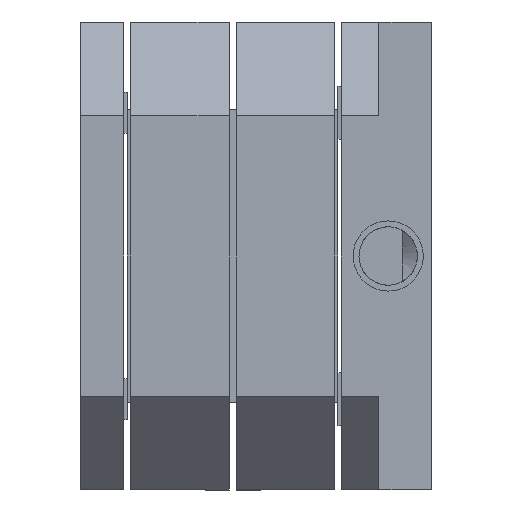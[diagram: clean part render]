
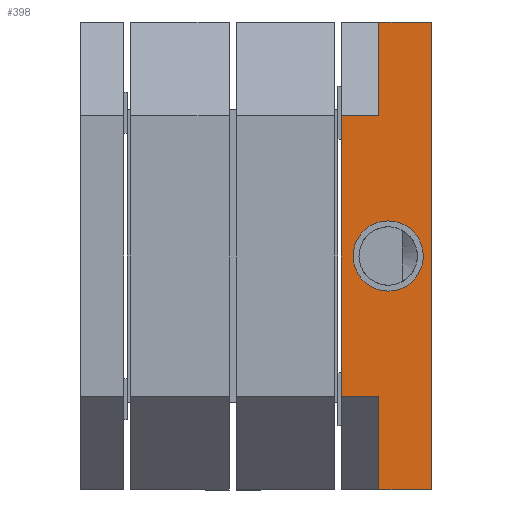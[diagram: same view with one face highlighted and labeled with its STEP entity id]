
A CAD part, front view. The second image highlights one B-rep face of the part: STEP entity #398.
In plain terms, the highlighted planar face has unit normal (0, -1, 0).
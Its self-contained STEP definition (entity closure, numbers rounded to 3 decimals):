
#1 = LINE ( 'NONE', #554, #2508 ) ;
#21 = LINE ( 'NONE', #2974, #5127 ) ;
#42 = VECTOR ( 'NONE', #1494, 1000. ) ;
#74 = DIRECTION ( 'NONE',  ( 1., 0., 0. ) ) ;
#109 = DIRECTION ( 'NONE',  ( 0., 0., -1. ) ) ;
#234 = PLANE ( 'NONE',  #5283 ) ;
#257 = VERTEX_POINT ( 'NONE', #2512 ) ;
#355 = EDGE_CURVE ( 'NONE', #257, #4995, #3972, .T. ) ;
#398 = ADVANCED_FACE ( 'NONE', ( #2708, #2584 ), #234, .F. ) ;
#413 = CARTESIAN_POINT ( 'NONE',  ( 7.7, -20., -20. ) ) ;
#432 = DIRECTION ( 'NONE',  ( -1., 0., 0. ) ) ;
#466 = CARTESIAN_POINT ( 'NONE',  ( 7.7, -20., -12. ) ) ;
#491 = LINE ( 'NONE', #4491, #42 ) ;
#554 = CARTESIAN_POINT ( 'NONE',  ( 0., -20., 20. ) ) ;
#673 = EDGE_CURVE ( 'NONE', #3992, #4473, #1, .T. ) ;
#711 = EDGE_CURVE ( 'NONE', #4995, #4681, #3447, .T. ) ;
#761 = CARTESIAN_POINT ( 'NONE',  ( 3.7, -20., 0. ) ) ;
#763 = CARTESIAN_POINT ( 'NONE',  ( 3.7, -20., -2.5 ) ) ;
#815 = LINE ( 'NONE', #413, #1152 ) ;
#1019 = ORIENTED_EDGE ( 'NONE', *, *, #4736, .F. ) ;
#1131 = CARTESIAN_POINT ( 'NONE',  ( 0., -20., -20. ) ) ;
#1145 = DIRECTION ( 'NONE',  ( 0., 0., -1. ) ) ;
#1152 = VECTOR ( 'NONE', #2976, 1000. ) ;
#1322 = EDGE_CURVE ( 'NONE', #3853, #4681, #3237, .T. ) ;
#1469 = LINE ( 'NONE', #3019, #2453 ) ;
#1472 = CIRCLE ( 'NONE', #5468, 2.5 ) ;
#1494 = DIRECTION ( 'NONE',  ( 0., 0., -1. ) ) ;
#1578 = ORIENTED_EDGE ( 'NONE', *, *, #4008, .F. ) ;
#1601 = CARTESIAN_POINT ( 'NONE',  ( 4.5, -20., -12. ) ) ;
#1943 = ORIENTED_EDGE ( 'NONE', *, *, #4478, .F. ) ;
#1964 = VERTEX_POINT ( 'NONE', #763 ) ;
#2107 = CARTESIAN_POINT ( 'NONE',  ( 4.5, -20., -20. ) ) ;
#2128 = ORIENTED_EDGE ( 'NONE', *, *, #673, .T. ) ;
#2135 = DIRECTION ( 'NONE',  ( 0., 0., -1. ) ) ;
#2180 = CARTESIAN_POINT ( 'NONE',  ( 4.5, -20., 12. ) ) ;
#2251 = CARTESIAN_POINT ( 'NONE',  ( 7.7, -20., 20. ) ) ;
#2367 = ORIENTED_EDGE ( 'NONE', *, *, #4623, .T. ) ;
#2408 = EDGE_LOOP ( 'NONE', ( #1578, #1943 ) ) ;
#2453 = VECTOR ( 'NONE', #109, 1000. ) ;
#2508 = VECTOR ( 'NONE', #3918, 1000. ) ;
#2512 = CARTESIAN_POINT ( 'NONE',  ( 4.5, -20., 12. ) ) ;
#2584 = FACE_OUTER_BOUND ( 'NONE', #3123, .T. ) ;
#2635 = EDGE_CURVE ( 'NONE', #3065, #257, #491, .T. ) ;
#2669 = DIRECTION ( 'NONE',  ( 0., 0., -1. ) ) ;
#2708 = FACE_BOUND ( 'NONE', #2408, .T. ) ;
#2775 = CARTESIAN_POINT ( 'NONE',  ( 4.5, -20., 20. ) ) ;
#2974 = CARTESIAN_POINT ( 'NONE',  ( 7.7, -20., 20. ) ) ;
#2976 = DIRECTION ( 'NONE',  ( -1., 0., 0. ) ) ;
#2990 = AXIS2_PLACEMENT_3D ( 'NONE', #5459, #4664, #2135 ) ;
#3019 = CARTESIAN_POINT ( 'NONE',  ( 4.5, -20., -12. ) ) ;
#3065 = VERTEX_POINT ( 'NONE', #2775 ) ;
#3116 = VECTOR ( 'NONE', #2669, 1000. ) ;
#3123 = EDGE_LOOP ( 'NONE', ( #1019, #4936, #3417, #4668, #3159, #2367, #2128, #3851 ) ) ;
#3159 = ORIENTED_EDGE ( 'NONE', *, *, #2635, .F. ) ;
#3204 = DIRECTION ( 'NONE',  ( 0., 1., 0. ) ) ;
#3237 = LINE ( 'NONE', #4128, #4899 ) ;
#3417 = ORIENTED_EDGE ( 'NONE', *, *, #711, .F. ) ;
#3447 = LINE ( 'NONE', #2251, #3116 ) ;
#3588 = CARTESIAN_POINT ( 'NONE',  ( 7.7, -20., 20. ) ) ;
#3615 = CARTESIAN_POINT ( 'NONE',  ( 7.7, -20., 12. ) ) ;
#3686 = EDGE_CURVE ( 'NONE', #5275, #4473, #815, .T. ) ;
#3703 = VECTOR ( 'NONE', #74, 1000. ) ;
#3783 = DIRECTION ( 'NONE',  ( 1., 0., 0. ) ) ;
#3851 = ORIENTED_EDGE ( 'NONE', *, *, #3686, .F. ) ;
#3853 = VERTEX_POINT ( 'NONE', #1601 ) ;
#3918 = DIRECTION ( 'NONE',  ( 0., 0., -1. ) ) ;
#3972 = LINE ( 'NONE', #2180, #3703 ) ;
#3992 = VERTEX_POINT ( 'NONE', #4235 ) ;
#3998 = DIRECTION ( 'NONE',  ( 0., 0., 1. ) ) ;
#4008 = EDGE_CURVE ( 'NONE', #1964, #4558, #4116, .T. ) ;
#4116 = CIRCLE ( 'NONE', #2990, 2.5 ) ;
#4128 = CARTESIAN_POINT ( 'NONE',  ( 4.5, -20., -12. ) ) ;
#4235 = CARTESIAN_POINT ( 'NONE',  ( 0., -20., 20. ) ) ;
#4473 = VERTEX_POINT ( 'NONE', #1131 ) ;
#4478 = EDGE_CURVE ( 'NONE', #4558, #1964, #1472, .T. ) ;
#4491 = CARTESIAN_POINT ( 'NONE',  ( 4.5, -20., 12. ) ) ;
#4558 = VERTEX_POINT ( 'NONE', #5040 ) ;
#4623 = EDGE_CURVE ( 'NONE', #3065, #3992, #21, .T. ) ;
#4664 = DIRECTION ( 'NONE',  ( 0., -1., 0. ) ) ;
#4668 = ORIENTED_EDGE ( 'NONE', *, *, #355, .F. ) ;
#4681 = VERTEX_POINT ( 'NONE', #466 ) ;
#4736 = EDGE_CURVE ( 'NONE', #3853, #5275, #1469, .T. ) ;
#4899 = VECTOR ( 'NONE', #3783, 1000. ) ;
#4936 = ORIENTED_EDGE ( 'NONE', *, *, #1322, .T. ) ;
#4945 = DIRECTION ( 'NONE',  ( 0., -1., 0. ) ) ;
#4995 = VERTEX_POINT ( 'NONE', #3615 ) ;
#5040 = CARTESIAN_POINT ( 'NONE',  ( 3.7, -20., 2.5 ) ) ;
#5127 = VECTOR ( 'NONE', #432, 1000. ) ;
#5275 = VERTEX_POINT ( 'NONE', #2107 ) ;
#5283 = AXIS2_PLACEMENT_3D ( 'NONE', #3588, #3204, #3998 ) ;
#5459 = CARTESIAN_POINT ( 'NONE',  ( 3.7, -20., 0. ) ) ;
#5468 = AXIS2_PLACEMENT_3D ( 'NONE', #761, #4945, #1145 ) ;
